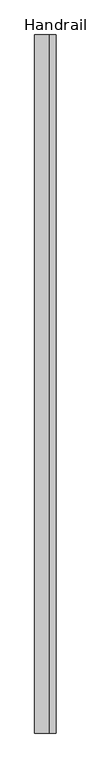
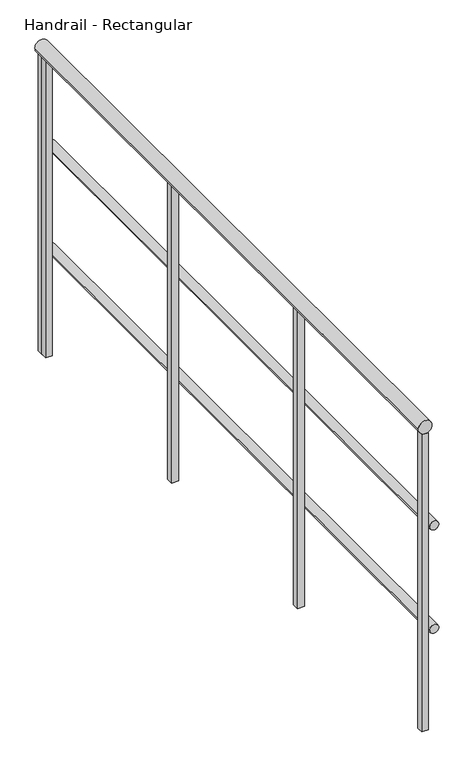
"""IFC4 building model written with IfcOpenShell, lengths in millimetres: railing geometry, Handrail - Rectangular."""

from ifc_helpers import new_model, si_unit, point, frame, frame_2d, origin, place, context, project, spatial, polyline, circle_curve, trimmed, segment, composite_curve, outline, extrude, source, transform, mapped, element, save


def handrail_rectangular_1f0af88b(model_context):
    return source(origin(), model_context, "Body", "SweptSolid", [
        extrude(outline(composite_curve([segment(trimmed(circle_curve(frame_2d((3644.9, 2322.5410437)), 12.7), [point((3644.9, 2335.2410437))], [point((3644.9, 2309.8410437))], False, "CARTESIAN"), True, "CONTINUOUS"), segment(trimmed(circle_curve(frame_2d((3644.9, 2322.5410437)), 12.7), [point((3644.9, 2309.8410437))], [point((3644.9, 2335.2410437))], False, "CARTESIAN"), True, "CONTINUOUS")], self_intersect=False)), frame((0.0, -30041.3683133, 0.0), z_axis=(0.0, 1.0, 0.0), x_axis=(0.0, 0.0, 1.0)), (0.0, 0.0, 1.0), 1854.2),
        extrude(outline(composite_curve([segment(trimmed(circle_curve(frame_2d((3340.1, 2322.5410437)), 12.7), [point((3340.1, 2335.2410437))], [point((3340.1, 2309.8410437))], False, "CARTESIAN"), True, "CONTINUOUS"), segment(trimmed(circle_curve(frame_2d((3340.1, 2322.5410437)), 12.7), [point((3340.1, 2309.8410437))], [point((3340.1, 2335.2410437))], False, "CARTESIAN"), True, "CONTINUOUS")], self_intersect=False)), frame((0.0, -30041.3683133, 0.0), z_axis=(0.0, 1.0, 0.0), x_axis=(0.0, 0.0, 1.0)), (0.0, 0.0, 1.0), 1854.2),
        extrude(outline(composite_curve([segment(trimmed(circle_curve(frame_2d((3943.35, 2297.1410437)), 19.05), [point((3943.35, 2316.1910437))], [point((3943.35, 2278.0910437))], False, "CARTESIAN"), True, "CONTINUOUS"), segment(trimmed(circle_curve(frame_2d((3943.35, 2297.1410437)), 19.05), [point((3943.35, 2278.0910437))], [point((3943.35, 2316.1910437))], False, "CARTESIAN"), True, "CONTINUOUS")], self_intersect=False)), frame((0.0, -30041.3683133, 0.0), z_axis=(0.0, 1.0, 0.0), x_axis=(0.0, 0.0, 1.0)), (0.0, 0.0, 1.0), 1854.2),
        extrude(outline(polyline([(2287.6160437, -28222.0933133), (2287.6160437, -28203.0433133), (2306.6660437, -28203.0433133), (2306.6660437, -28222.0933133), (2287.6160437, -28222.0933133)])), frame((0.0, 0.0, 3048.0), z_axis=(0.0, 0.0, 1.0), x_axis=(1.0, 0.0, 0.0)), (0.0, 0.0, 1.0), 876.3),
        extrude(outline(polyline([(2287.6160437, -28831.6933133), (2287.6160437, -28812.6433133), (2306.6660437, -28812.6433133), (2306.6660437, -28831.6933133), (2287.6160437, -28831.6933133)])), frame((0.0, 0.0, 3048.0), z_axis=(0.0, 0.0, 1.0), x_axis=(1.0, 0.0, 0.0)), (0.0, 0.0, 1.0), 876.3),
        extrude(outline(polyline([(2287.6160437, -29441.2933133), (2287.6160437, -29422.2433133), (2306.6660437, -29422.2433133), (2306.6660437, -29441.2933133), (2287.6160437, -29441.2933133)])), frame((0.0, 0.0, 3048.0), z_axis=(0.0, 0.0, 1.0), x_axis=(1.0, 0.0, 0.0)), (0.0, 0.0, 1.0), 876.3),
        extrude(outline(polyline([(2287.6160437, -28206.2183133), (2287.6160437, -28187.1683133), (2306.6660437, -28187.1683133), (2306.6660437, -28206.2183133), (2287.6160437, -28206.2183133)])), frame((0.0, 0.0, 3048.0), z_axis=(0.0, 0.0, 1.0), x_axis=(1.0, 0.0, 0.0)), (0.0, 0.0, 1.0), 876.3),
        extrude(outline(polyline([(2287.6160437, -30041.3683133), (2287.6160437, -30022.3183133), (2306.6660437, -30022.3183133), (2306.6660437, -30041.3683133), (2287.6160437, -30041.3683133)])), frame((0.0, 0.0, 3048.0), z_axis=(0.0, 0.0, 1.0), x_axis=(1.0, 0.0, 0.0)), (0.0, 0.0, 1.0), 876.3),
    ])


if __name__ == "__main__":
    model = new_model("IFC4")
    model_context = context("Model", 3, world=origin())
    ifc_project = project(units=[si_unit("LENGTHUNIT", "METRE", prefix="MILLI")], contexts=[model_context])
    site = spatial("IfcSite", under=ifc_project)
    building = spatial("IfcBuilding", under=site)
    placement = place(None, origin())
    handrail_rectangular_shape = handrail_rectangular_1f0af88b(model_context)
    element("IfcRailing", 1, ObjectType="Handrail - Rectangular", at=placement, inside=building, context=model_context, shape_type="MappedRepresentation", body=[
        mapped(handrail_rectangular_shape, transform((0.0, 0.0, 0.0), x_axis=(1.0, 0.0, 0.0), y_axis=(0.0, 1.0, 0.0), z_axis=(0.0, 0.0, 1.0))),
    ])
    save(model, "model.ifc")
